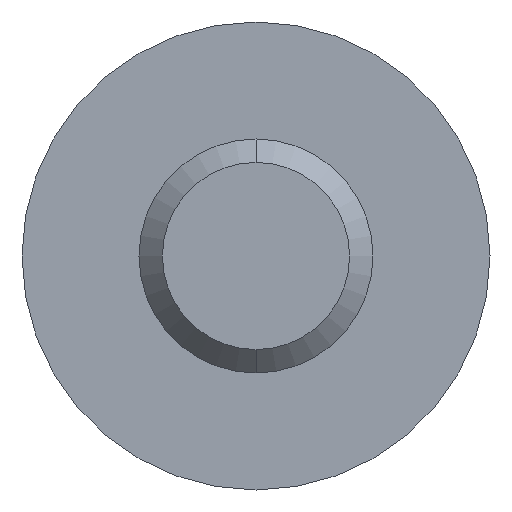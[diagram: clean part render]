
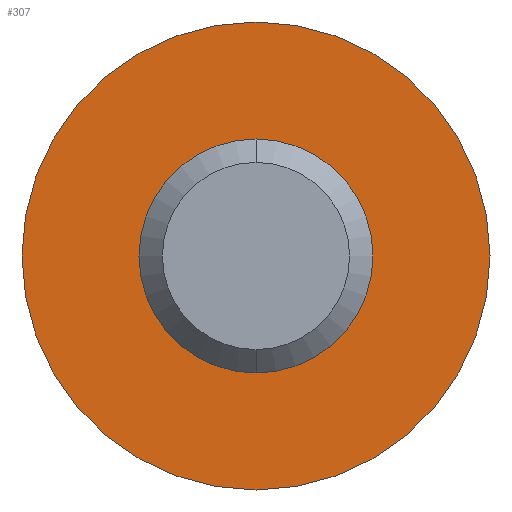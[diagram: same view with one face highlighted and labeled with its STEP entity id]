
A CAD part, front view. The second image highlights one B-rep face of the part: STEP entity #307.
In plain terms, the highlighted planar face has unit normal (0, -1, 0).
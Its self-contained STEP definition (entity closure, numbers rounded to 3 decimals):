
#8 = DIRECTION ( 'NONE',  ( 0., 0., 1. ) ) ;
#22 = CARTESIAN_POINT ( 'NONE',  ( 0., 0., -1. ) ) ;
#36 = EDGE_CURVE ( 'NONE', #390, #440, #116, .T. ) ;
#44 = EDGE_CURVE ( 'NONE', #47, #219, #103, .T. ) ;
#47 = VERTEX_POINT ( 'NONE', #478 ) ;
#49 = CARTESIAN_POINT ( 'NONE',  ( 0., 0., 0. ) ) ;
#59 = ORIENTED_EDGE ( 'NONE', *, *, #36, .F. ) ;
#63 = EDGE_CURVE ( 'NONE', #219, #47, #489, .T. ) ;
#64 = DIRECTION ( 'NONE',  ( 0., 1., 0. ) ) ;
#74 = CARTESIAN_POINT ( 'NONE',  ( 0., 0., 1. ) ) ;
#81 = DIRECTION ( 'NONE',  ( 0., 1., 0. ) ) ;
#103 = CIRCLE ( 'NONE', #344, 0.5 ) ;
#116 = CIRCLE ( 'NONE', #151, 1. ) ;
#130 = ORIENTED_EDGE ( 'NONE', *, *, #501, .F. ) ;
#134 = EDGE_LOOP ( 'NONE', ( #408, #257 ) ) ;
#141 = DIRECTION ( 'NONE',  ( 0., 0., 1. ) ) ;
#151 = AXIS2_PLACEMENT_3D ( 'NONE', #479, #296, #8 ) ;
#194 = CARTESIAN_POINT ( 'NONE',  ( 0.5, 0., 0. ) ) ;
#219 = VERTEX_POINT ( 'NONE', #246 ) ;
#226 = CARTESIAN_POINT ( 'NONE',  ( 0., 0., 0. ) ) ;
#246 = CARTESIAN_POINT ( 'NONE',  ( 0., 0., -0.5 ) ) ;
#254 = DIRECTION ( 'NONE',  ( 0., 0., 1. ) ) ;
#257 = ORIENTED_EDGE ( 'NONE', *, *, #63, .T. ) ;
#270 = DIRECTION ( 'NONE',  ( 0., 0., 1. ) ) ;
#293 = DIRECTION ( 'NONE',  ( 0., 1., 0. ) ) ;
#296 = DIRECTION ( 'NONE',  ( 0., 1., 0. ) ) ;
#299 = CIRCLE ( 'NONE', #507, 1. ) ;
#307 = ADVANCED_FACE ( 'NONE', ( #496, #403 ), #453, .F. ) ;
#326 = CARTESIAN_POINT ( 'NONE',  ( 0., 0., 0. ) ) ;
#344 = AXIS2_PLACEMENT_3D ( 'NONE', #49, #293, #254 ) ;
#363 = DIRECTION ( 'NONE',  ( 0., 0., 1. ) ) ;
#384 = AXIS2_PLACEMENT_3D ( 'NONE', #194, #64, #270 ) ;
#390 = VERTEX_POINT ( 'NONE', #22 ) ;
#396 = AXIS2_PLACEMENT_3D ( 'NONE', #226, #488, #141 ) ;
#403 = FACE_BOUND ( 'NONE', #134, .T. ) ;
#404 = EDGE_LOOP ( 'NONE', ( #130, #59 ) ) ;
#408 = ORIENTED_EDGE ( 'NONE', *, *, #44, .T. ) ;
#440 = VERTEX_POINT ( 'NONE', #74 ) ;
#453 = PLANE ( 'NONE',  #384 ) ;
#478 = CARTESIAN_POINT ( 'NONE',  ( 0., 0., 0.5 ) ) ;
#479 = CARTESIAN_POINT ( 'NONE',  ( 0., 0., 0. ) ) ;
#488 = DIRECTION ( 'NONE',  ( 0., 1., 0. ) ) ;
#489 = CIRCLE ( 'NONE', #396, 0.5 ) ;
#496 = FACE_OUTER_BOUND ( 'NONE', #404, .T. ) ;
#501 = EDGE_CURVE ( 'NONE', #440, #390, #299, .T. ) ;
#507 = AXIS2_PLACEMENT_3D ( 'NONE', #326, #81, #363 ) ;
